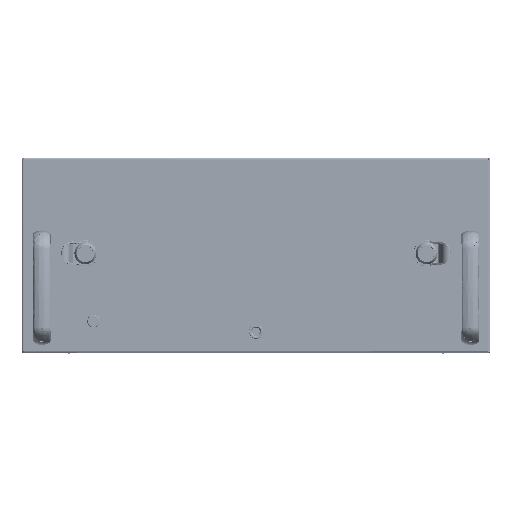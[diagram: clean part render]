
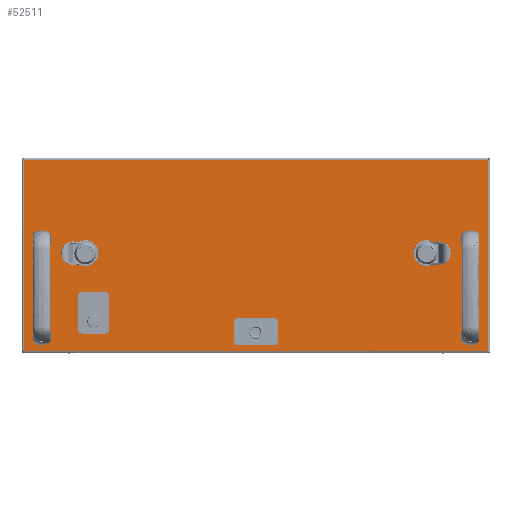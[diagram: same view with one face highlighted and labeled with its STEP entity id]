
A CAD part, front view. The second image highlights one B-rep face of the part: STEP entity #52511.
In plain terms, the highlighted planar face has unit normal (0, -1, 0) as drawn and (0, 0, 1) by its records, which use the part's own axes.
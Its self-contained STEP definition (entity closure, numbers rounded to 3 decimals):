
#50146=CARTESIAN_POINT(' ',(591.7,244.7,0.));
#50151=DIRECTION(' ',(0.,-1.,0.));
#50156=VECTOR(' ',#50151,1.);
#50161=LINE('',#50146,#50156);
#50166=CARTESIAN_POINT(' ',(591.7,244.7,0.));
#50167=VERTEX_POINT(' ',#50166);
#50171=CARTESIAN_POINT(' ',(591.7,2.3,0.));
#50172=VERTEX_POINT(' ',#50171);
#50176=EDGE_CURVE(' ',#50167,#50172,#50161,.T.);
#51701=DIRECTION(' ',(-0.,-0.,1.));
#51706=CARTESIAN_POINT(' ',(591.7,2.3,0.));
#51711=DIRECTION(' ',(0.,1.,0.));
#51716=AXIS2_PLACEMENT_3D(' ',#51706,#51701,#51711);
#51721=PLANE('NONE',#51716);
#51726=CARTESIAN_POINT(' ',(2.3,2.3,0.));
#51731=DIRECTION(' ',(1.,0.,0.));
#51736=VECTOR(' ',#51731,1.);
#51741=LINE('',#51726,#51736);
#51746=CARTESIAN_POINT(' ',(2.3,2.3,0.));
#51747=VERTEX_POINT(' ',#51746);
#51751=EDGE_CURVE(' ',#51747,#50172,#51741,.T.);
#51756=ORIENTED_EDGE(' ',*,*,#51751,.T.);
#51761=ORIENTED_EDGE(' ',*,*,#50176,.F.);
#51766=CARTESIAN_POINT(' ',(591.7,244.7,0.));
#51771=DIRECTION(' ',(-1.,0.,0.));
#51776=VECTOR(' ',#51771,1.);
#51781=LINE('',#51766,#51776);
#51786=CARTESIAN_POINT(' ',(2.3,244.7,0.));
#51787=VERTEX_POINT(' ',#51786);
#51791=EDGE_CURVE(' ',#50167,#51787,#51781,.T.);
#51796=ORIENTED_EDGE(' ',*,*,#51791,.T.);
#51801=CARTESIAN_POINT(' ',(2.3,244.7,0.));
#51806=DIRECTION(' ',(0.,-1.,0.));
#51811=VECTOR(' ',#51806,1.);
#51816=LINE('',#51801,#51811);
#51821=EDGE_CURVE(' ',#51787,#51747,#51816,.T.);
#51826=ORIENTED_EDGE(' ',*,*,#51821,.T.);
#51831=EDGE_LOOP(' ',(#51756,#51761,#51796,#51826));
#51836=FACE_OUTER_BOUND(' ',#51831,.T.);
#51841=CARTESIAN_POINT(' ',(110.85,30.,0.));
#51846=DIRECTION(' ',(0.,1.,0.));
#51851=VECTOR(' ',#51846,1.);
#51856=LINE('',#51841,#51851);
#51861=CARTESIAN_POINT(' ',(110.85,30.,0.));
#51862=VERTEX_POINT(' ',#51861);
#51866=CARTESIAN_POINT(' ',(110.85,71.,0.));
#51867=VERTEX_POINT(' ',#51866);
#51871=EDGE_CURVE(' ',#51862,#51867,#51856,.T.);
#51876=ORIENTED_EDGE(' ',*,*,#51871,.F.);
#51881=CARTESIAN_POINT(' ',(104.85,30.,0.));
#51886=DIRECTION(' ',(0.,-0.,1.));
#51891=DIRECTION(' ',(0.,-1.,0.));
#51896=AXIS2_PLACEMENT_3D(' ',#51881,#51886,#51891);
#51901=CIRCLE('',#51896,6.);
#51906=CARTESIAN_POINT(' ',(104.85,24.,0.));
#51907=VERTEX_POINT(' ',#51906);
#51911=EDGE_CURVE(' ',#51907,#51862,#51901,.T.);
#51916=ORIENTED_EDGE(' ',*,*,#51911,.F.);
#51921=CARTESIAN_POINT(' ',(76.85,24.,0.));
#51926=DIRECTION(' ',(1.,0.,0.));
#51931=VECTOR(' ',#51926,1.);
#51936=LINE('',#51921,#51931);
#51941=CARTESIAN_POINT(' ',(76.85,24.,0.));
#51942=VERTEX_POINT(' ',#51941);
#51946=EDGE_CURVE(' ',#51942,#51907,#51936,.T.);
#51951=ORIENTED_EDGE(' ',*,*,#51946,.F.);
#51956=CARTESIAN_POINT(' ',(76.85,30.,0.));
#51961=DIRECTION(' ',(-0.,-0.,1.));
#51966=DIRECTION(' ',(-1.,0.,0.));
#51971=AXIS2_PLACEMENT_3D(' ',#51956,#51961,#51966);
#51976=CIRCLE('',#51971,6.);
#51981=CARTESIAN_POINT(' ',(70.85,30.,0.));
#51982=VERTEX_POINT(' ',#51981);
#51986=EDGE_CURVE(' ',#51982,#51942,#51976,.T.);
#51991=ORIENTED_EDGE(' ',*,*,#51986,.F.);
#51996=CARTESIAN_POINT(' ',(70.85,71.,0.));
#52001=DIRECTION(' ',(0.,-1.,0.));
#52006=VECTOR(' ',#52001,1.);
#52011=LINE('',#51996,#52006);
#52016=CARTESIAN_POINT(' ',(70.85,71.,0.));
#52017=VERTEX_POINT(' ',#52016);
#52021=EDGE_CURVE(' ',#52017,#51982,#52011,.T.);
#52026=ORIENTED_EDGE(' ',*,*,#52021,.F.);
#52031=CARTESIAN_POINT(' ',(76.85,71.,0.));
#52036=DIRECTION(' ',(0.,0.,1.));
#52041=DIRECTION(' ',(0.,1.,0.));
#52046=AXIS2_PLACEMENT_3D(' ',#52031,#52036,#52041);
#52051=CIRCLE('',#52046,6.);
#52056=CARTESIAN_POINT(' ',(76.85,77.,0.));
#52057=VERTEX_POINT(' ',#52056);
#52061=EDGE_CURVE(' ',#52057,#52017,#52051,.T.);
#52066=ORIENTED_EDGE(' ',*,*,#52061,.F.);
#52071=CARTESIAN_POINT(' ',(104.85,77.,0.));
#52076=DIRECTION(' ',(-1.,0.,0.));
#52081=VECTOR(' ',#52076,1.);
#52086=LINE('',#52071,#52081);
#52091=CARTESIAN_POINT(' ',(104.85,77.,0.));
#52092=VERTEX_POINT(' ',#52091);
#52096=EDGE_CURVE(' ',#52092,#52057,#52086,.T.);
#52101=ORIENTED_EDGE(' ',*,*,#52096,.F.);
#52106=CARTESIAN_POINT(' ',(104.85,71.,0.));
#52111=DIRECTION(' ',(0.,0.,1.));
#52116=DIRECTION(' ',(1.,0.,0.));
#52121=AXIS2_PLACEMENT_3D(' ',#52106,#52111,#52116);
#52126=CIRCLE('',#52121,6.);
#52131=EDGE_CURVE(' ',#51867,#52092,#52126,.T.);
#52136=ORIENTED_EDGE(' ',*,*,#52131,.F.);
#52141=EDGE_LOOP(' ',(#51876,#51916,#51951,#51991,#52026,#52066,#52101,#52136));
#52146=FACE_BOUND(' ',#52141,.T.);
#52151=CARTESIAN_POINT(' ',(297.,26.5,0.));
#52156=DIRECTION(' ',(0.,-0.,-1.));
#52161=DIRECTION(' ',(-1.,0.,0.));
#52166=AXIS2_PLACEMENT_3D(' ',#52151,#52156,#52161);
#52171=CIRCLE('',#52166,10.);
#52176=CARTESIAN_POINT(' ',(287.,26.5,0.));
#52177=VERTEX_POINT(' ',#52176);
#52181=CARTESIAN_POINT(' ',(307.,26.5,0.));
#52182=VERTEX_POINT(' ',#52181);
#52186=EDGE_CURVE(' ',#52177,#52182,#52171,.T.);
#52191=ORIENTED_EDGE(' ',*,*,#52186,.T.);
#52196=CARTESIAN_POINT(' ',(297.,26.5,0.));
#52201=DIRECTION(' ',(0.,0.,-1.));
#52206=DIRECTION(' ',(1.,0.,0.));
#52211=AXIS2_PLACEMENT_3D(' ',#52196,#52201,#52206);
#52216=CIRCLE('',#52211,10.);
#52221=EDGE_CURVE(' ',#52182,#52177,#52216,.T.);
#52226=ORIENTED_EDGE(' ',*,*,#52221,.T.);
#52231=EDGE_LOOP(' ',(#52191,#52226));
#52236=FACE_BOUND(' ',#52231,.T.);
#52241=CARTESIAN_POINT(' ',(569.,143.5,0.));
#52246=DIRECTION(' ',(0.,0.,-1.));
#52251=DIRECTION(' ',(-1.,0.,0.));
#52256=AXIS2_PLACEMENT_3D(' ',#52241,#52246,#52251);
#52261=CIRCLE('',#52256,3.75);
#52266=CARTESIAN_POINT(' ',(565.25,143.5,0.));
#52267=VERTEX_POINT(' ',#52266);
#52271=CARTESIAN_POINT(' ',(572.75,143.5,0.));
#52272=VERTEX_POINT(' ',#52271);
#52276=EDGE_CURVE(' ',#52267,#52272,#52261,.T.);
#52281=ORIENTED_EDGE(' ',*,*,#52276,.T.);
#52286=CARTESIAN_POINT(' ',(569.,143.5,0.));
#52291=DIRECTION(' ',(0.,0.,-1.));
#52296=DIRECTION(' ',(1.,0.,0.));
#52301=AXIS2_PLACEMENT_3D(' ',#52286,#52291,#52296);
#52306=CIRCLE('',#52301,3.75);
#52311=EDGE_CURVE(' ',#52272,#52267,#52306,.T.);
#52316=ORIENTED_EDGE(' ',*,*,#52311,.T.);
#52321=EDGE_LOOP(' ',(#52281,#52316));
#52326=FACE_BOUND(' ',#52321,.T.);
#52331=CARTESIAN_POINT(' ',(25.,23.5,0.));
#52336=DIRECTION(' ',(0.,0.,-1.));
#52341=DIRECTION(' ',(-1.,0.,0.));
#52346=AXIS2_PLACEMENT_3D(' ',#52331,#52336,#52341);
#52351=CIRCLE('',#52346,3.75);
#52356=CARTESIAN_POINT(' ',(21.25,23.5,0.));
#52357=VERTEX_POINT(' ',#52356);
#52361=CARTESIAN_POINT(' ',(28.75,23.5,0.));
#52362=VERTEX_POINT(' ',#52361);
#52366=EDGE_CURVE(' ',#52357,#52362,#52351,.T.);
#52371=ORIENTED_EDGE(' ',*,*,#52366,.T.);
#52376=CARTESIAN_POINT(' ',(25.,23.5,0.));
#52381=DIRECTION(' ',(0.,0.,-1.));
#52386=DIRECTION(' ',(1.,0.,0.));
#52391=AXIS2_PLACEMENT_3D(' ',#52376,#52381,#52386);
#52396=CIRCLE('',#52391,3.75);
#52401=EDGE_CURVE(' ',#52362,#52357,#52396,.T.);
#52406=ORIENTED_EDGE(' ',*,*,#52401,.T.);
#52411=EDGE_LOOP(' ',(#52371,#52406));
#52416=FACE_BOUND(' ',#52411,.T.);
#52421=CARTESIAN_POINT(' ',(25.,143.5,0.));
#52426=DIRECTION(' ',(0.,0.,-1.));
#52431=DIRECTION(' ',(-1.,0.,0.));
#52436=AXIS2_PLACEMENT_3D(' ',#52421,#52426,#52431);
#52441=CIRCLE('',#52436,3.75);
#52446=CARTESIAN_POINT(' ',(21.25,143.5,0.));
#52447=VERTEX_POINT(' ',#52446);
#52451=CARTESIAN_POINT(' ',(28.75,143.5,0.));
#52452=VERTEX_POINT(' ',#52451);
#52456=EDGE_CURVE(' ',#52447,#52452,#52441,.T.);
#52461=ORIENTED_EDGE(' ',*,*,#52456,.T.);
#52466=CARTESIAN_POINT(' ',(25.,143.5,0.));
#52471=DIRECTION(' ',(0.,0.,-1.));
#52476=DIRECTION(' ',(1.,0.,0.));
#52481=AXIS2_PLACEMENT_3D(' ',#52466,#52471,#52476);
#52486=CIRCLE('',#52481,3.75);
#52491=EDGE_CURVE(' ',#52452,#52447,#52486,.T.);
#52496=ORIENTED_EDGE(' ',*,*,#52491,.T.);
#52501=EDGE_LOOP(' ',(#52461,#52496));
#52506=FACE_BOUND(' ',#52501,.T.);
#52511=ADVANCED_FACE('NONE',(#51836,#52146,#52236,#52326,#52416,#52506),#51721,.T.);
